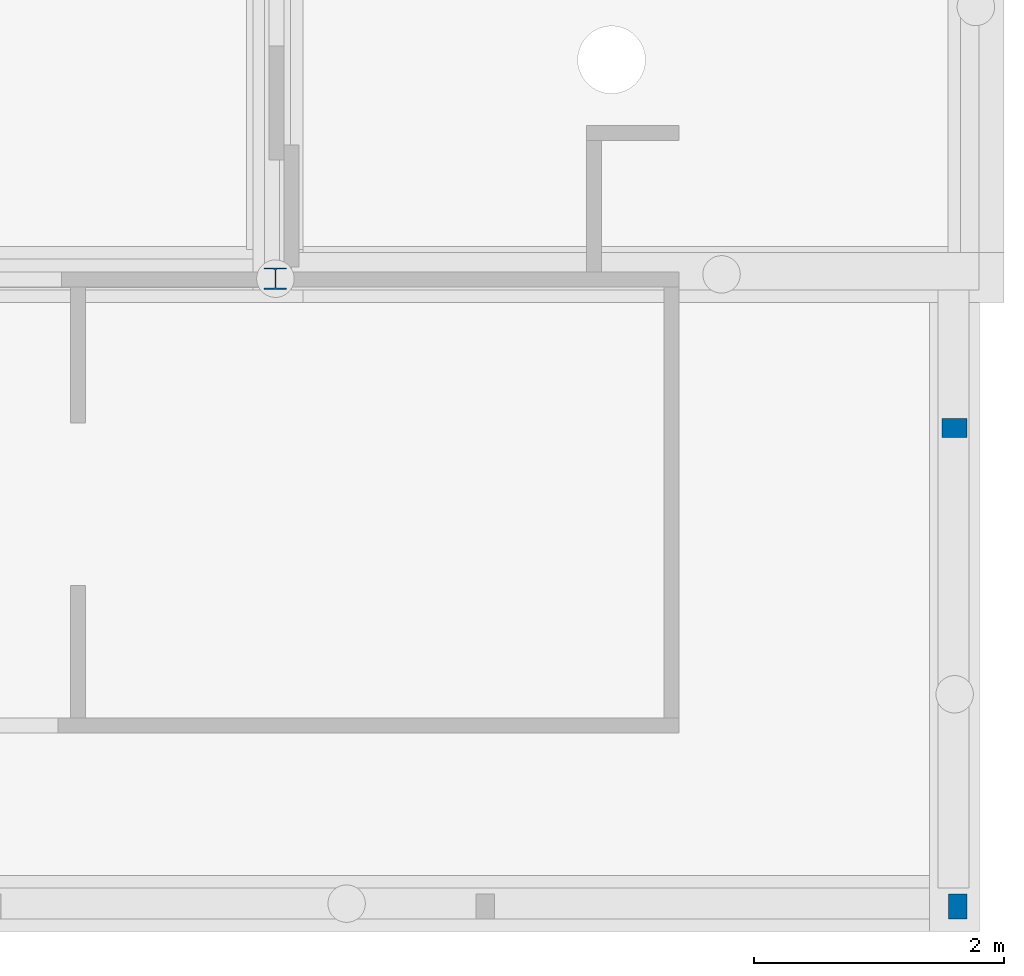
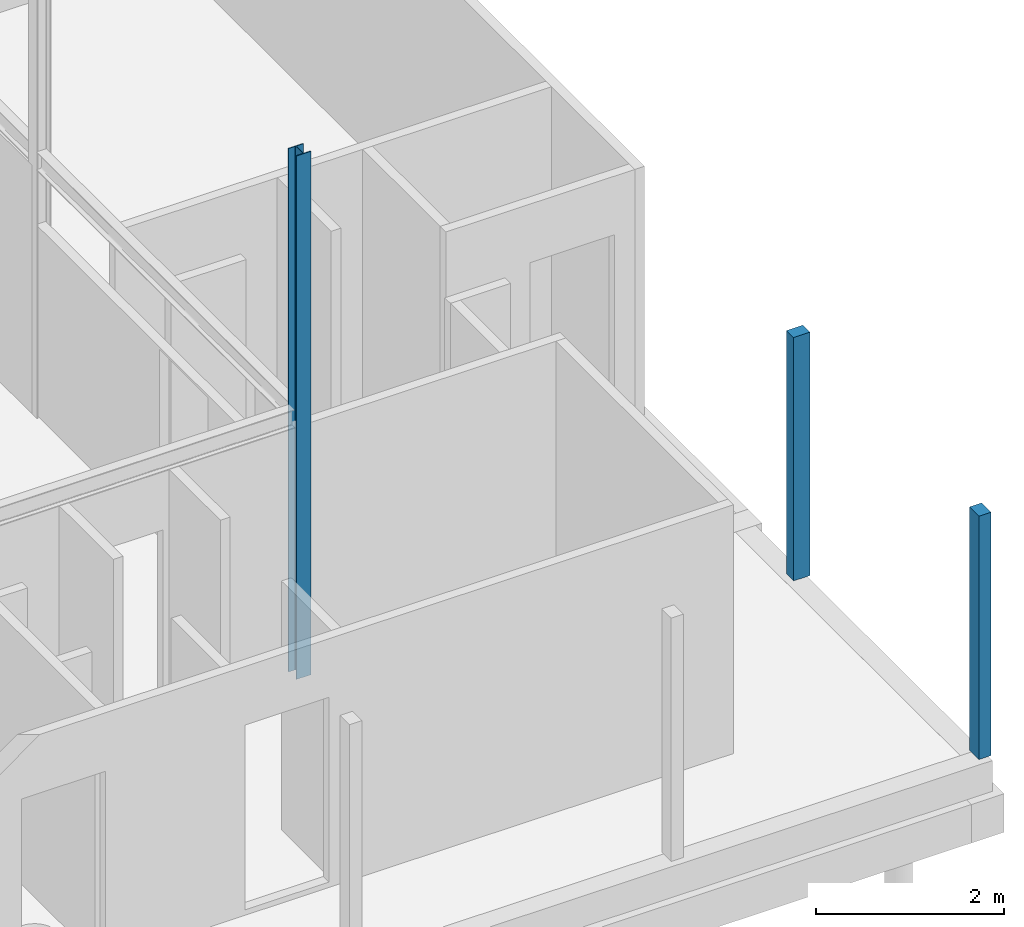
# One storey, part 4 of 17: 3 columns.
"""IFC2X3 building model written with IfcOpenShell, lengths in millimetres."""

from ifc_helpers import new_model, entity, si_unit, converted_unit, derived_unit, direction, frame, frame_2d, origin, origin_2d_with_axis, place, context, subcontext, project, spatial, polyline, circle_curve, parameter, trimmed, segment, composite_curve, rectangle, outline, extrude, source, transform, mapped, material, type_object, type_shapes, element, save


model = new_model("IFC2X3")

# Units and contexts
model_context = context("Model", 3, precision=0.01, world=origin(), true_north=direction((6.123031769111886e-17, 1.0)))
plan_context = context("Plan", 3, precision=0.01, world=origin(), true_north=direction((6.123031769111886e-17, 1.0)))
body_context = subcontext(model_context, "Body", "Model", "MODEL_VIEW")
ifc_project = project(units=[si_unit("LENGTHUNIT", "METRE", prefix="MILLI"), si_unit("AREAUNIT", "SQUARE_METRE"), si_unit("VOLUMEUNIT", "CUBIC_METRE"), converted_unit("PLANEANGLEUNIT", "DEGREE", entity("IfcPlaneAngleMeasure", 0.017453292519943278), si_unit("PLANEANGLEUNIT", "RADIAN"), dimensions=[0, 0, 0, 0, 0, 0, 0]), si_unit("MASSUNIT", "GRAM", prefix="KILO"), derived_unit("MASSDENSITYUNIT", [(si_unit("MASSUNIT", "GRAM", prefix="KILO"), 1), (si_unit("LENGTHUNIT", "METRE"), -3)]), derived_unit("IONCONCENTRATIONUNIT", [(si_unit("MASSUNIT", "GRAM", prefix="KILO"), 1), (si_unit("LENGTHUNIT", "METRE"), -3)]), derived_unit("MOMENTOFINERTIAUNIT", [(si_unit("LENGTHUNIT", "METRE"), 4)]), si_unit("TIMEUNIT", "SECOND"), si_unit("FREQUENCYUNIT", "HERTZ"), si_unit("THERMODYNAMICTEMPERATUREUNIT", "DEGREE_CELSIUS"), derived_unit("THERMALTRANSMITTANCEUNIT", [(si_unit("MASSUNIT", "GRAM", prefix="KILO"), 1), (si_unit("THERMODYNAMICTEMPERATUREUNIT", "KELVIN"), -1), (si_unit("TIMEUNIT", "SECOND"), -3)]), derived_unit("THERMALCONDUCTANCEUNIT", [(si_unit("MASSUNIT", "GRAM", prefix="KILO"), 1), (si_unit("THERMODYNAMICTEMPERATUREUNIT", "KELVIN"), -1), (si_unit("TIMEUNIT", "SECOND"), -3), (si_unit("LENGTHUNIT", "METRE"), 1)]), derived_unit("VOLUMETRICFLOWRATEUNIT", [(si_unit("LENGTHUNIT", "METRE", prefix="DECI"), 3), (si_unit("TIMEUNIT", "SECOND"), -1)]), derived_unit("MASSFLOWRATEUNIT", [(si_unit("MASSUNIT", "GRAM", prefix="KILO"), 1), (si_unit("TIMEUNIT", "SECOND"), -1)]), derived_unit("ROTATIONALFREQUENCYUNIT", [(si_unit("TIMEUNIT", "SECOND"), -1)]), si_unit("ELECTRICCURRENTUNIT", "AMPERE"), si_unit("ELECTRICVOLTAGEUNIT", "VOLT"), si_unit("POWERUNIT", "WATT"), si_unit("FORCEUNIT", "NEWTON", prefix="KILO"), si_unit("ILLUMINANCEUNIT", "LUX"), si_unit("LUMINOUSFLUXUNIT", "LUMEN"), si_unit("LUMINOUSINTENSITYUNIT", "CANDELA"), si_unit("ENERGYUNIT", "JOULE"), derived_unit("USERDEFINED", [(si_unit("MASSUNIT", "GRAM", prefix="KILO"), -1), (si_unit("LENGTHUNIT", "METRE"), -2), (si_unit("TIMEUNIT", "SECOND"), 3), (si_unit("LUMINOUSFLUXUNIT", "LUMEN"), 1)]), derived_unit("USERDEFINED", [(si_unit("MASSUNIT", "GRAM", prefix="KILO"), 1), (si_unit("TIMEUNIT", "SECOND"), -3), (si_unit("LENGTHUNIT", "METRE"), 3), (si_unit("ELECTRICCURRENTUNIT", "AMPERE"), -2)]), derived_unit("SOUNDPOWERUNIT", [(si_unit("MASSUNIT", "GRAM", prefix="KILO"), 1), (si_unit("TIMEUNIT", "SECOND"), -3), (si_unit("LENGTHUNIT", "METRE"), 2)]), derived_unit("SOUNDPRESSUREUNIT", [(si_unit("MASSUNIT", "GRAM", prefix="KILO"), 1), (si_unit("LENGTHUNIT", "METRE"), -1), (si_unit("TIMEUNIT", "SECOND"), -2)]), derived_unit("LINEARVELOCITYUNIT", [(si_unit("LENGTHUNIT", "METRE"), 1), (si_unit("TIMEUNIT", "SECOND"), -1)]), si_unit("PRESSUREUNIT", "PASCAL"), derived_unit("USERDEFINED", [(si_unit("MASSUNIT", "GRAM", prefix="KILO"), 1), (si_unit("LENGTHUNIT", "METRE"), -2), (si_unit("TIMEUNIT", "SECOND"), -2)]), derived_unit("LINEARFORCEUNIT", [(si_unit("MASSUNIT", "GRAM", prefix="KILO"), 1), (si_unit("TIMEUNIT", "SECOND"), -2)]), derived_unit("PLANARFORCEUNIT", [(si_unit("MASSUNIT", "GRAM", prefix="KILO"), 1), (si_unit("LENGTHUNIT", "METRE"), -1), (si_unit("TIMEUNIT", "SECOND"), -2)]), derived_unit("SPECIFICHEATCAPACITYUNIT", [(si_unit("THERMODYNAMICTEMPERATUREUNIT", "KELVIN"), -1), (si_unit("LENGTHUNIT", "METRE"), 2), (si_unit("TIMEUNIT", "SECOND"), -2)]), derived_unit("HEATFLUXDENSITYUNIT", [(si_unit("MASSUNIT", "GRAM", prefix="KILO"), 1), (si_unit("TIMEUNIT", "SECOND"), -3)]), derived_unit("HEATINGVALUEUNIT", [(si_unit("LENGTHUNIT", "METRE"), 2), (si_unit("TIMEUNIT", "SECOND"), -2)]), derived_unit("VAPORPERMEABILITYUNIT", [(si_unit("LENGTHUNIT", "METRE"), -1), (si_unit("TIMEUNIT", "SECOND"), 1)]), derived_unit("DYNAMICVISCOSITYUNIT", [(si_unit("MASSUNIT", "GRAM", prefix="KILO"), 1), (si_unit("TIMEUNIT", "SECOND"), -1), (si_unit("LENGTHUNIT", "METRE"), -1)]), derived_unit("THERMALEXPANSIONCOEFFICIENTUNIT", [(si_unit("THERMODYNAMICTEMPERATUREUNIT", "KELVIN"), -1)]), derived_unit("MODULUSOFELASTICITYUNIT", [(si_unit("MASSUNIT", "GRAM", prefix="KILO"), 1), (si_unit("LENGTHUNIT", "METRE"), -1), (si_unit("TIMEUNIT", "SECOND"), -2)]), derived_unit("ISOTHERMALMOISTURECAPACITYUNIT", [(si_unit("MASSUNIT", "GRAM", prefix="KILO"), -1), (si_unit("LENGTHUNIT", "METRE"), 3)]), derived_unit("MOISTUREDIFFUSIVITYUNIT", [(si_unit("TIMEUNIT", "SECOND"), -1), (si_unit("LENGTHUNIT", "METRE"), 2)]), derived_unit("MASSPERLENGTHUNIT", [(si_unit("MASSUNIT", "GRAM", prefix="KILO"), 1), (si_unit("LENGTHUNIT", "METRE"), -1)]), derived_unit("THERMALRESISTANCEUNIT", [(si_unit("MASSUNIT", "GRAM", prefix="KILO"), -1), (si_unit("TIMEUNIT", "SECOND"), 3), (si_unit("THERMODYNAMICTEMPERATUREUNIT", "KELVIN"), 1)]), derived_unit("ACCELERATIONUNIT", [(si_unit("LENGTHUNIT", "METRE"), 1), (si_unit("TIMEUNIT", "SECOND"), -2)]), derived_unit("ANGULARVELOCITYUNIT", [(si_unit("TIMEUNIT", "SECOND"), -1), (si_unit("PLANEANGLEUNIT", "RADIAN"), 1)]), derived_unit("LINEARSTIFFNESSUNIT", [(si_unit("MASSUNIT", "GRAM", prefix="KILO"), 1), (si_unit("TIMEUNIT", "SECOND"), -2)]), derived_unit("WARPINGCONSTANTUNIT", [(si_unit("LENGTHUNIT", "METRE"), 6)]), derived_unit("LINEARMOMENTUNIT", [(si_unit("MASSUNIT", "GRAM", prefix="KILO"), 1), (si_unit("LENGTHUNIT", "METRE"), 1), (si_unit("TIMEUNIT", "SECOND"), -2)]), derived_unit("TORQUEUNIT", [(si_unit("MASSUNIT", "GRAM", prefix="KILO"), 1), (si_unit("LENGTHUNIT", "METRE"), 2), (si_unit("TIMEUNIT", "SECOND"), -2)])], contexts=[model_context, plan_context])

# Site, building, storey
site_placement = place(None, origin())
site = spatial("IfcSite", under=ifc_project, at=site_placement, Name="Default", CompositionType="ELEMENT")
building_placement = place(site_placement, origin())
building = spatial("IfcBuilding", under=site, at=building_placement, CompositionType="ELEMENT")
storey_placement = place(building_placement, origin())
storey = spatial("IfcBuildingStorey", under=building, at=storey_placement, Name="00 begane grond", CompositionType="ELEMENT", Elevation=0.0)

# Columns
ifc_material_1 = material(Name="constructiehout C24")
column_type_1 = type_object("IfcColumnType", Name="28_SCO_TLB_houten kolom rechthoekig_dw:150x200 (C24)", PredefinedType="COLUMN", material=ifc_material_1)
shared_shape_1 = source(origin(), body_context, "Body", "SweptSolid", [
    extrude(rectangle(XDim=150.0, YDim=199.99999999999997, at=origin_2d_with_axis()), frame((0.0, 0.0, 0.0), z_axis=(0.0, 0.0, 1.0), x_axis=(-1.0, 0.0, 0.0)), (0.0, 0.0, 1.0), 3160.0000000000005),
])
type_shapes(column_type_1, [shared_shape_1])
column_1_placement = place(storey_placement, frame((55955.19293735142, 11312.670463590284, 0.0)))
element("IfcColumn", 1, at=column_1_placement, inside=storey, type_object=column_type_1, material=ifc_material_1, Name="28_SCO_TLB_houten kolom rechthoekig_dw:150x200 (C24)", ObjectType="28_SCO_TLB_houten kolom rechthoekig_dw:150x200 (C24)", context=body_context, shape_type="MappedRepresentation", body=[
    mapped(shared_shape_1, transform((0.0, 0.0, 0.0), scale=1.0)),
])
column_2_placement = place(storey_placement, frame((55930.19293735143, 15142.670340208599, 0.0), z_axis=(0.0, 0.0, 1.0), x_axis=(0.0, 1.0, 0.0)))
element("IfcColumn", 2, at=column_2_placement, inside=storey, type_object=column_type_1, material=ifc_material_1, Name="28_SCO_TLB_houten kolom rechthoekig_dw:150x200 (C24)", ObjectType="28_SCO_TLB_houten kolom rechthoekig_dw:150x200 (C24)", context=body_context, shape_type="MappedRepresentation", body=[
    mapped(shared_shape_1, transform((0.0, 0.0, 0.0), scale=1.0)),
])
ifc_material_2 = material(Name="constructiestaal S235")
column_type_2 = type_object("IfcColumnType", Name="28_SCO_TLB_HEA kolom_dw:HE180A (S235)", PredefinedType="COLUMN", material=ifc_material_2)
shared_shape_2 = source(origin(), body_context, "Body", "SweptSolid", [
    extrude(outline(composite_curve([segment(polyline([(-90.0, -76.0), (-90.0, -85.49999999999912)]), True, "CONTINUOUS"), segment(polyline([(-90.0, -85.49999999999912), (90.0, -85.49999999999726)]), True, "CONTINUOUS"), segment(polyline([(90.0, -85.49999999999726), (90.0, -76.0)]), True, "CONTINUOUS"), segment(polyline([(90.0, -76.0), (18.0, -76.0)]), True, "CONTINUOUS"), segment(trimmed(circle_curve(frame_2d((18.0, -61.0), x_axis=(1.0, 0.0)), 15.0), [parameter(180.00000000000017)], [parameter(269.9999999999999)], True, "PARAMETER"), False, "CONTINUOUS"), segment(polyline([(3.0, -61.0), (3.0, 61.0)]), True, "CONTINUOUS"), segment(trimmed(circle_curve(frame_2d((18.0, 61.0), x_axis=(1.0, 0.0)), 15.0), [parameter(90.00000000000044)], [parameter(180.0000000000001)], True, "PARAMETER"), False, "CONTINUOUS"), segment(polyline([(18.0, 76.0), (90.0, 76.0)]), True, "CONTINUOUS"), segment(polyline([(90.0, 76.0), (90.0, 85.49999999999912)]), True, "CONTINUOUS"), segment(polyline([(90.0, 85.49999999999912), (-90.0, 85.49999999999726)]), True, "CONTINUOUS"), segment(polyline([(-90.0, 85.49999999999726), (-90.0, 76.0)]), True, "CONTINUOUS"), segment(polyline([(-90.0, 76.0), (-18.0, 76.0)]), True, "CONTINUOUS"), segment(trimmed(circle_curve(frame_2d((-18.0, 61.0), x_axis=(1.0, 0.0)), 15.0), [parameter(0.0)], [parameter(90.00000000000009)], True, "PARAMETER"), False, "CONTINUOUS"), segment(polyline([(-3.0, 61.0), (-3.0, -61.0)]), True, "CONTINUOUS"), segment(trimmed(circle_curve(frame_2d((-18.0, -61.0), x_axis=(1.0, 0.0)), 15.0), [parameter(269.9999999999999)], [parameter(0.0)], True, "PARAMETER"), False, "CONTINUOUS"), segment(polyline([(-18.0, -76.0), (-90.0, -76.0)]), True, "CONTINUOUS")], self_intersect=False)), frame((50496.19293735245, 16338.17046359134, -100.0), z_axis=(0.0, 0.0, -1.0), x_axis=(-1.0, 0.0, 0.0)), (0.0, 0.0, -1.0), 6796.999999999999),
])
type_shapes(column_type_2, [shared_shape_2])
column_3_placement = place(storey_placement, origin())
element("IfcColumn", 3, at=column_3_placement, inside=storey, type_object=column_type_2, material=ifc_material_2, Name="28_SCO_TLB_HEA kolom_dw:HE180A (S235)", ObjectType="28_SCO_TLB_HEA kolom_dw:HE180A (S235)", context=body_context, shape_type="MappedRepresentation", body=[
    mapped(shared_shape_2, transform((0.0, 0.0, 0.0), scale=1.0)),
])

save(model, "model.ifc")
